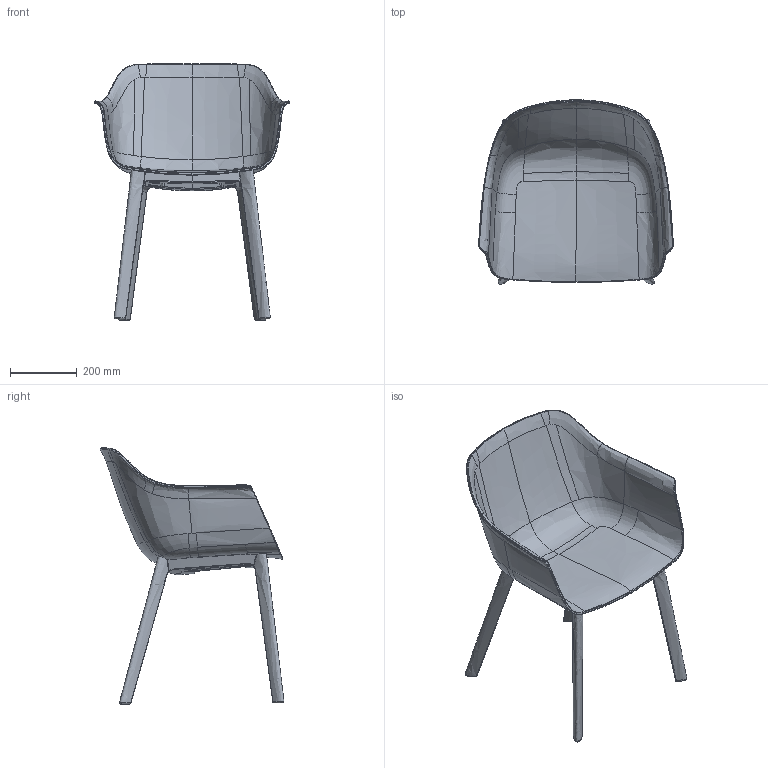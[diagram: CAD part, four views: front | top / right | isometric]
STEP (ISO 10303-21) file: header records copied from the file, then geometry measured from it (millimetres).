
FILE_DESCRIPTION(/* description */ (''),/* implementation_level */ '2;1');
FILE_NAME(/* name */ 'kinoshita_abord_g202',/* time_stamp */ '2025-09-16T15:47:30+09:00',/* author */ (''),/* organization */ (''),/* preprocessor_version */ 'ST-DEVELOPER v16.5',/* originating_system */ '',/* authorisation */ '');
FILE_SCHEMA (('AUTOMOTIVE_DESIGN'));
Products named in the file (1): Document
Bounding box: 585.28 x 552.74 x 770.39 mm (x, y, z)
Volume: 2306144.8 mm3; surface area: 1478030.9 mm2
Topology: 9 solids, 18 shells, 1091 faces, 2920 edges, 1849 vertices
Faces by surface type: bspline 789, plane 302
Entity records: 197006 total; most frequent: CARTESIAN_POINT 179554, ORIENTED_EDGE 5763, EDGE_CURVE 2900, B_SPLINE_CURVE_WITH_KNOTS 2327, VERTEX_POINT 1849, EDGE_LOOP 1133, ADVANCED_FACE 1091, FACE_OUTER_BOUND 1091
